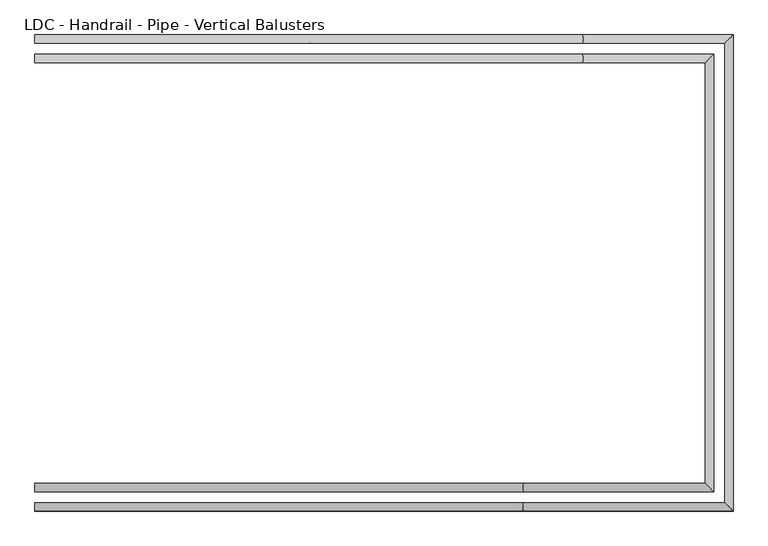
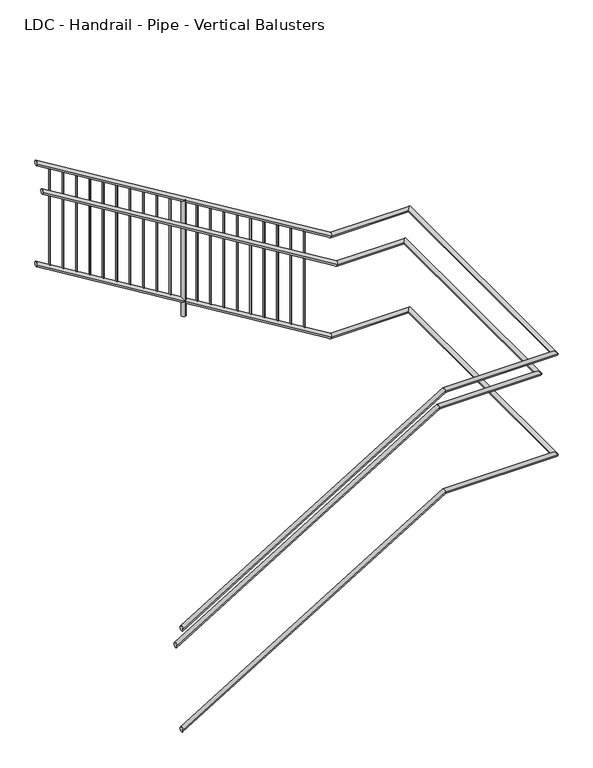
"""IFC4 building model written with IfcOpenShell, lengths in millimetres: railing geometry, LDC - Handrail - Pipe - Vertical Balusters."""

from ifc_helpers import new_model, si_unit, point, frame, frame_2d, origin, place, context, project, spatial, circle_curve, ellipse_curve, trimmed, segment, composite_curve, outline, extrude, source, transform, mapped, element, save
from ifc_brep_helpers import plane_surface, cylinder_surface, advanced_brep


def ldc_handrail_pipe_vertical_balusters_fcc166f6(model_context):
    return source(origin(), model_context, "Body", "SolidModel", [
        advanced_brep(
        [(-2909.3516552, 8367.077236, 1214.5008594), (-2909.3516552, 8328.977236, 1214.5008594), (-668.811597, 8367.077236, 2577.75), (-668.811597, 8328.977236, 2577.75), (252.9483448, 8367.077236, 2577.75), (291.0483448, 8328.977236, 2577.75), (252.9483448, 10475.277236, 2577.75), (291.0483448, 10513.377236, 2577.75), (-400.0917134, 10475.277236, 2577.75), (-400.0917134, 10513.377236, 2577.75), (-2909.3516552, 10475.277236, 4104.5008594), (-2909.3516552, 10513.377236, 4104.5008594)],
        [
            (0, 1, ellipse_curve(frame((-2909.3516552, 8348.027236, 1214.5008594), z_axis=(-1.0, 0.0, 0.0), x_axis=(0.0, 0.0, -1.0)), 22.2991406, 19.05)),
            (1, 0, ellipse_curve(frame((-2909.3516552, 8348.027236, 1214.5008594), z_axis=(-1.0, 0.0, 0.0), x_axis=(0.0, 0.0, -1.0)), 22.2991406, 19.05)),
            (0, 2),
            (2, 3, ellipse_curve(frame((-668.811597, 8348.027236, 2577.75), z_axis=(-0.9628844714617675, 0.0, -0.2699138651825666), x_axis=(0.2699138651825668, 0.0, -0.9628844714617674)), 19.7843049, 19.05)),
            (3, 1),
            (3, 2, ellipse_curve(frame((-668.811597, 8348.027236, 2577.75), z_axis=(-0.9628844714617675, 0.0, -0.2699138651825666), x_axis=(0.2699138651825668, 0.0, -0.9628844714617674)), 19.7843049, 19.05)),
            (2, 4),
            (4, 5, ellipse_curve(frame((271.9983448, 8348.027236, 2577.75), z_axis=(-0.7071067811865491, -0.7071067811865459, 0.0), x_axis=(-0.7071067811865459, 0.7071067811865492, 0.0)), 26.9407684, 19.05)),
            (5, 3),
            (5, 4, ellipse_curve(frame((271.9983448, 8348.027236, 2577.75), z_axis=(-0.7071067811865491, -0.7071067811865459, 0.0), x_axis=(-0.7071067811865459, 0.7071067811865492, 0.0)), 26.9407684, 19.05)),
            (4, 6),
            (6, 7, ellipse_curve(frame((271.9983448, 10494.327236, 2577.75), z_axis=(0.7071067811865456, -0.7071067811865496, 0.0), x_axis=(-0.7071067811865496, -0.7071067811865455, 0.0)), 26.9407684, 19.05)),
            (7, 5),
            (7, 6, ellipse_curve(frame((271.9983448, 10494.327236, 2577.75), z_axis=(0.7071067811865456, -0.7071067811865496, 0.0), x_axis=(-0.7071067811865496, -0.7071067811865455, 0.0)), 26.9407684, 19.05)),
            (6, 8),
            (8, 9, ellipse_curve(frame((-400.0917134, 10494.327236, 2577.75), z_axis=(0.9628844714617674, 0.0, -0.2699138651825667), x_axis=(0.26991386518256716, 0.0, 0.9628844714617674)), 19.7843049, 19.05)),
            (9, 7),
            (9, 8, ellipse_curve(frame((-400.0917134, 10494.327236, 2577.75), z_axis=(0.9628844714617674, 0.0, -0.2699138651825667), x_axis=(0.26991386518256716, 0.0, 0.9628844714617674)), 19.7843049, 19.05)),
            (10, 11, ellipse_curve(frame((-2909.3516552, 10494.327236, 4104.5008594), z_axis=(-1.0, 0.0, 0.0), x_axis=(0.0, 0.0, -1.0)), 22.2991406, 19.05)),
            (11, 10, ellipse_curve(frame((-2909.3516552, 10494.327236, 4104.5008594), z_axis=(-1.0, 0.0, 0.0), x_axis=(0.0, 0.0, -1.0)), 22.2991406, 19.05)),
            (8, 10),
            (11, 9),
        ],
        [
            plane_surface(frame((-2909.3516552, 8348.027236, 1236.8), z_axis=(-1.0, 0.0, 0.0), x_axis=(0.0, 1.0, 0.0))),
            cylinder_surface(frame((-2899.4496225, 8348.027236, 1220.5257181), z_axis=(-0.8542930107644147, 0.0, -0.5197917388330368), x_axis=(0.0, -1.0, 0.0)), 19.05),
            cylinder_surface(frame((-674.1516552, 8348.027236, 2577.75), z_axis=(-1.0, 0.0, 0.0), x_axis=(0.0, -1.0, 0.0)), 19.05),
            cylinder_surface(frame((271.9983448, 8348.027236, 2577.75), z_axis=(0.0, -1.0, 0.0), x_axis=(1.0, 0.0, 0.0)), 19.05),
            cylinder_surface(frame((271.9983448, 10494.327236, 2577.75), z_axis=(1.0, 0.0, 0.0), x_axis=(0.0, 1.0, 0.0)), 19.05),
            plane_surface(frame((-2909.3516552, 10494.327236, 4126.8), z_axis=(-1.0, 0.0, 0.0), x_axis=(0.0, -1.0, 0.0))),
            cylinder_surface(frame((-404.6536878, 10494.327236, 2580.5257181), z_axis=(0.8542930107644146, 0.0, -0.519791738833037), x_axis=(0.0, 1.0, 0.0)), 19.05),
        ],
        [
            (0, [[1, 2]]),
            (1, [[-1, 3, 4, 5]]),
            (1, [[-2, -5, 6, -3]]),
            (2, [[-4, 7, 8, 9]]),
            (2, [[-6, -9, 10, -7]]),
            (3, [[-8, 11, 12, 13]]),
            (3, [[-10, -13, 14, -11]]),
            (4, [[-12, 15, 16, 17]]),
            (4, [[-14, -17, 18, -15]]),
            (5, [[19, 20]]),
            (6, [[-16, 21, -20, 22]]),
            (6, [[-18, -22, -19, -21]]),
        ],
    ),
        advanced_brep(
        [(-2909.3516552, 8367.077236, 304.8633594), (-2909.3516552, 8328.977236, 304.8633594), (-668.811597, 8367.077236, 1668.1125), (-668.811597, 8328.977236, 1668.1125), (252.9483448, 8367.077236, 1668.1125), (291.0483448, 8328.977236, 1668.1125), (252.9483448, 10475.277236, 1668.1125), (291.0483448, 10513.377236, 1668.1125), (-400.0917134, 10475.277236, 1668.1125), (-400.0917134, 10513.377236, 1668.1125), (-2909.3516552, 10475.277236, 3194.8633594), (-2909.3516552, 10513.377236, 3194.8633594)],
        [
            (0, 1, ellipse_curve(frame((-2909.3516552, 8348.027236, 304.8633594), z_axis=(-1.0, 0.0, 0.0), x_axis=(0.0, 0.0, -1.0)), 22.2991406, 19.05)),
            (1, 0, ellipse_curve(frame((-2909.3516552, 8348.027236, 304.8633594), z_axis=(-1.0, 0.0, 0.0), x_axis=(0.0, 0.0, -1.0)), 22.2991406, 19.05)),
            (0, 2),
            (2, 3, ellipse_curve(frame((-668.811597, 8348.027236, 1668.1125), z_axis=(-0.9628844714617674, 0.0, -0.26991386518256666), x_axis=(0.2699138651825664, 0.0, -0.9628844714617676)), 19.7843049, 19.05)),
            (3, 1),
            (3, 2, ellipse_curve(frame((-668.811597, 8348.027236, 1668.1125), z_axis=(-0.9628844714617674, 0.0, -0.26991386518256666), x_axis=(0.2699138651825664, 0.0, -0.9628844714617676)), 19.7843049, 19.05)),
            (2, 4),
            (4, 5, ellipse_curve(frame((271.9983448, 8348.027236, 1668.1125), z_axis=(-0.7071067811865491, -0.7071067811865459, 0.0), x_axis=(-0.7071067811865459, 0.7071067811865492, 0.0)), 26.9407684, 19.05)),
            (5, 3),
            (5, 4, ellipse_curve(frame((271.9983448, 8348.027236, 1668.1125), z_axis=(-0.7071067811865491, -0.7071067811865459, 0.0), x_axis=(-0.7071067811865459, 0.7071067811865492, 0.0)), 26.9407684, 19.05)),
            (4, 6),
            (6, 7, ellipse_curve(frame((271.9983448, 10494.327236, 1668.1125), z_axis=(0.7071067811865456, -0.7071067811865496, 0.0), x_axis=(-0.7071067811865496, -0.7071067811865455, 0.0)), 26.9407684, 19.05)),
            (7, 5),
            (7, 6, ellipse_curve(frame((271.9983448, 10494.327236, 1668.1125), z_axis=(0.7071067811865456, -0.7071067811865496, 0.0), x_axis=(-0.7071067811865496, -0.7071067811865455, 0.0)), 26.9407684, 19.05)),
            (6, 8),
            (8, 9, ellipse_curve(frame((-400.0917134, 10494.327236, 1668.1125), z_axis=(0.9628844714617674, 0.0, -0.2699138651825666), x_axis=(0.2699138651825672, 0.0, 0.9628844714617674)), 19.7843049, 19.05)),
            (9, 7),
            (9, 8, ellipse_curve(frame((-400.0917134, 10494.327236, 1668.1125), z_axis=(0.9628844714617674, 0.0, -0.2699138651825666), x_axis=(0.2699138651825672, 0.0, 0.9628844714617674)), 19.7843049, 19.05)),
            (10, 11, ellipse_curve(frame((-2909.3516552, 10494.327236, 3194.8633594), z_axis=(-1.0, 0.0, 0.0), x_axis=(0.0, 0.0, -1.0)), 22.2991406, 19.05)),
            (11, 10, ellipse_curve(frame((-2909.3516552, 10494.327236, 3194.8633594), z_axis=(-1.0, 0.0, 0.0), x_axis=(0.0, 0.0, -1.0)), 22.2991406, 19.05)),
            (8, 10),
            (11, 9),
        ],
        [
            plane_surface(frame((-2909.3516552, 8348.027236, 327.1625), z_axis=(-1.0, 0.0, 0.0), x_axis=(0.0, 1.0, 0.0))),
            cylinder_surface(frame((-2899.4496225, 8348.027236, 310.8882181), z_axis=(-0.8542930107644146, 0.0, -0.5197917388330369), x_axis=(0.0, -1.0, 0.0)), 19.05),
            cylinder_surface(frame((-674.1516552, 8348.027236, 1668.1125), z_axis=(-1.0, 0.0, 0.0), x_axis=(0.0, -1.0, 0.0)), 19.05),
            cylinder_surface(frame((271.9983448, 8348.027236, 1668.1125), z_axis=(0.0, -1.0, 0.0), x_axis=(1.0, 0.0, 0.0)), 19.05),
            cylinder_surface(frame((271.9983448, 10494.327236, 1668.1125), z_axis=(1.0, 0.0, 0.0), x_axis=(0.0, 1.0, 0.0)), 19.05),
            plane_surface(frame((-2909.3516552, 10494.327236, 3217.1625), z_axis=(-1.0, 0.0, 0.0), x_axis=(0.0, -1.0, 0.0))),
            cylinder_surface(frame((-404.6536878, 10494.327236, 1670.8882181), z_axis=(0.8542930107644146, 0.0, -0.5197917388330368), x_axis=(0.0, 1.0, 0.0)), 19.05),
        ],
        [
            (0, [[1, 2]]),
            (1, [[-1, 3, 4, 5]]),
            (1, [[-2, -5, 6, -3]]),
            (2, [[-4, 7, 8, 9]]),
            (2, [[-6, -9, 10, -7]]),
            (3, [[-8, 11, 12, 13]]),
            (3, [[-10, -13, 14, -11]]),
            (4, [[-12, 15, 16, 17]]),
            (4, [[-14, -17, 18, -15]]),
            (5, [[19, 20]]),
            (6, [[-16, 21, -20, 22]]),
            (6, [[-18, -22, -19, -21]]),
        ],
    ),
        advanced_brep(
        [(-2909.3516552, 8455.977236, 1011.3008594), (-2909.3516552, 8417.877236, 1011.3008594), (-668.811597, 8455.977236, 2374.55), (-668.811597, 8417.877236, 2374.55), (164.0483448, 8455.977236, 2374.55), (202.1483448, 8417.877236, 2374.55), (164.0483448, 10386.377236, 2374.55), (202.1483448, 10424.477236, 2374.55), (-400.0917134, 10386.377236, 2374.55), (-400.0917134, 10424.477236, 2374.55), (-2909.3516552, 10386.377236, 3901.3008594), (-2909.3516552, 10424.477236, 3901.3008594)],
        [
            (0, 1, ellipse_curve(frame((-2909.3516552, 8436.927236, 1011.3008594), z_axis=(-1.0, 0.0, 0.0), x_axis=(0.0, 0.0, -1.0)), 22.2991406, 19.05)),
            (1, 0, ellipse_curve(frame((-2909.3516552, 8436.927236, 1011.3008594), z_axis=(-1.0, 0.0, 0.0), x_axis=(0.0, 0.0, -1.0)), 22.2991406, 19.05)),
            (0, 2),
            (2, 3, ellipse_curve(frame((-668.811597, 8436.927236, 2374.55), z_axis=(-0.9628844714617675, 0.0, -0.2699138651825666), x_axis=(0.2699138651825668, 0.0, -0.9628844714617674)), 19.7843049, 19.05)),
            (3, 1),
            (3, 2, ellipse_curve(frame((-668.811597, 8436.927236, 2374.55), z_axis=(-0.9628844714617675, 0.0, -0.2699138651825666), x_axis=(0.2699138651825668, 0.0, -0.9628844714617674)), 19.7843049, 19.05)),
            (2, 4),
            (4, 5, ellipse_curve(frame((183.0983448, 8436.927236, 2374.55), z_axis=(-0.7071067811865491, -0.7071067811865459, 0.0), x_axis=(-0.7071067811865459, 0.7071067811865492, 0.0)), 26.9407684, 19.05)),
            (5, 3),
            (5, 4, ellipse_curve(frame((183.0983448, 8436.927236, 2374.55), z_axis=(-0.7071067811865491, -0.7071067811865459, 0.0), x_axis=(-0.7071067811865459, 0.7071067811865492, 0.0)), 26.9407684, 19.05)),
            (4, 6),
            (6, 7, ellipse_curve(frame((183.0983448, 10405.427236, 2374.55), z_axis=(0.7071067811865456, -0.7071067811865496, 0.0), x_axis=(-0.7071067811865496, -0.7071067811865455, 0.0)), 26.9407684, 19.05)),
            (7, 5),
            (7, 6, ellipse_curve(frame((183.0983448, 10405.427236, 2374.55), z_axis=(0.7071067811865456, -0.7071067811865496, 0.0), x_axis=(-0.7071067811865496, -0.7071067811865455, 0.0)), 26.9407684, 19.05)),
            (6, 8),
            (8, 9, ellipse_curve(frame((-400.0917134, 10405.427236, 2374.55), z_axis=(0.9628844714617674, 0.0, -0.26991386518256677), x_axis=(0.2699138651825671, 0.0, 0.9628844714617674)), 19.7843049, 19.05)),
            (9, 7),
            (9, 8, ellipse_curve(frame((-400.0917134, 10405.427236, 2374.55), z_axis=(0.9628844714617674, 0.0, -0.26991386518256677), x_axis=(0.2699138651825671, 0.0, 0.9628844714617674)), 19.7843049, 19.05)),
            (10, 11, ellipse_curve(frame((-2909.3516552, 10405.427236, 3901.3008594), z_axis=(-1.0, 0.0, 0.0), x_axis=(0.0, 0.0, -1.0)), 22.2991406, 19.05)),
            (11, 10, ellipse_curve(frame((-2909.3516552, 10405.427236, 3901.3008594), z_axis=(-1.0, 0.0, 0.0), x_axis=(0.0, 0.0, -1.0)), 22.2991406, 19.05)),
            (8, 10),
            (11, 9),
        ],
        [
            plane_surface(frame((-2909.3516552, 8436.927236, 1033.6), z_axis=(-1.0, 0.0, 0.0), x_axis=(0.0, 1.0, 0.0))),
            cylinder_surface(frame((-2899.4496225, 8436.927236, 1017.3257181), z_axis=(-0.8542930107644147, 0.0, -0.5197917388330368), x_axis=(0.0, -1.0, 0.0)), 19.05),
            cylinder_surface(frame((-674.1516552, 8436.927236, 2374.55), z_axis=(-1.0, 0.0, 0.0), x_axis=(0.0, -1.0, 0.0)), 19.05),
            cylinder_surface(frame((183.0983448, 8436.927236, 2374.55), z_axis=(0.0, -1.0, 0.0), x_axis=(1.0, 0.0, 0.0)), 19.05),
            cylinder_surface(frame((183.0983448, 10405.427236, 2374.55), z_axis=(1.0, 0.0, 0.0), x_axis=(0.0, 1.0, 0.0)), 19.05),
            plane_surface(frame((-2909.3516552, 10405.427236, 3923.6), z_axis=(-1.0, 0.0, 0.0), x_axis=(0.0, -1.0, 0.0))),
            cylinder_surface(frame((-404.6536878, 10405.427236, 2377.3257181), z_axis=(0.8542930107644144, 0.0, -0.5197917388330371), x_axis=(0.0, 1.0, 0.0)), 19.05),
        ],
        [
            (0, [[1, 2]]),
            (1, [[-1, 3, 4, 5]]),
            (1, [[-2, -5, 6, -3]]),
            (2, [[-4, 7, 8, 9]]),
            (2, [[-6, -9, 10, -7]]),
            (3, [[-8, 11, 12, 13]]),
            (3, [[-10, -13, 14, -11]]),
            (4, [[-12, 15, 16, 17]]),
            (4, [[-14, -17, 18, -15]]),
            (5, [[19, 20]]),
            (6, [[-16, 21, -20, 22]]),
            (6, [[-18, -22, -19, -21]]),
        ],
    ),
        advanced_brep(
        [(-2795.0516552, 10500.677236, 4012.7034503), (-2795.0516552, 10500.677236, 3147.6170455), (-2795.0516552, 10487.977236, 3147.6170455), (-2795.0516552, 10487.977236, 4012.7034503)],
        [
            (0, 1),
            (1, 2, ellipse_curve(frame((-2795.0516552, 10494.327236, 3147.6170455), z_axis=(0.5183017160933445, 0.0, 0.8551978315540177), x_axis=(-0.8551978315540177, 0.0, 0.5183017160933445)), 7.4251825, 6.35)),
            (2, 3),
            (3, 0, ellipse_curve(frame((-2795.0516552, 10494.327236, 4012.7034503), z_axis=(-0.5183017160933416, 0.0, -0.8551978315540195), x_axis=(-0.8551978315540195, 0.0, 0.5183017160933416)), 7.4251825, 6.35)),
            (0, 3, ellipse_curve(frame((-2795.0516552, 10494.327236, 4012.7034503), z_axis=(-0.5183017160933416, 0.0, -0.8551978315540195), x_axis=(-0.8551978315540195, 0.0, 0.5183017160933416)), 7.4251825, 6.35)),
            (2, 1, ellipse_curve(frame((-2795.0516552, 10494.327236, 3147.6170455), z_axis=(0.5183017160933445, 0.0, 0.8551978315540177), x_axis=(-0.8551978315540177, 0.0, 0.5183017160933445)), 7.4251825, 6.35)),
        ],
        [
            cylinder_surface(frame((-2795.0516552, 10494.327236, 2919.0170455), z_axis=(0.0, 0.0, 1.0), x_axis=(0.0, -1.0, 0.0)), 6.35),
            plane_surface(frame((-2807.7516552, 10481.627236, 4020.40042), z_axis=(0.5183017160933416, 0.0, 0.8551978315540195), x_axis=(0.0, 1.0, 0.0))),
            plane_surface(frame((-2782.3516552, 10481.627236, 3139.9200758), z_axis=(-0.5183017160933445, 0.0, -0.8551978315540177), x_axis=(0.0, 1.0, 0.0))),
        ],
        [
            (0, [[1, 2, 3, 4]]),
            (0, [[-1, 5, -3, 6]]),
            (1, [[-4, -5]]),
            (2, [[-2, -6]]),
        ],
    ),
        advanced_brep(
        [(-2680.7516552, 10500.677236, 3943.1579957), (-2680.7516552, 10500.677236, 3078.0715909), (-2680.7516552, 10487.977236, 3078.0715909), (-2680.7516552, 10487.977236, 3943.1579957)],
        [
            (0, 1),
            (1, 2, ellipse_curve(frame((-2680.7516552, 10494.327236, 3078.0715909), z_axis=(0.5183017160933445, 0.0, 0.8551978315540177), x_axis=(-0.8551978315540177, 0.0, 0.5183017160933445)), 7.4251825, 6.35)),
            (2, 3),
            (3, 0, ellipse_curve(frame((-2680.7516552, 10494.327236, 3943.1579957), z_axis=(-0.5183017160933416, 0.0, -0.8551978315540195), x_axis=(-0.8551978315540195, 0.0, 0.5183017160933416)), 7.4251825, 6.35)),
            (0, 3, ellipse_curve(frame((-2680.7516552, 10494.327236, 3943.1579957), z_axis=(-0.5183017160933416, 0.0, -0.8551978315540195), x_axis=(-0.8551978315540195, 0.0, 0.5183017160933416)), 7.4251825, 6.35)),
            (2, 1, ellipse_curve(frame((-2680.7516552, 10494.327236, 3078.0715909), z_axis=(0.5183017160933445, 0.0, 0.8551978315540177), x_axis=(-0.8551978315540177, 0.0, 0.5183017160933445)), 7.4251825, 6.35)),
        ],
        [
            cylinder_surface(frame((-2680.7516552, 10494.327236, 2849.4715909), z_axis=(0.0, 0.0, 1.0), x_axis=(0.0, -1.0, 0.0)), 6.35),
            plane_surface(frame((-2693.4516552, 10481.627236, 3950.8549654), z_axis=(0.5183017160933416, 0.0, 0.8551978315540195), x_axis=(0.0, 1.0, 0.0))),
            plane_surface(frame((-2668.0516552, 10481.627236, 3070.3746212), z_axis=(-0.5183017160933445, 0.0, -0.8551978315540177), x_axis=(0.0, 1.0, 0.0))),
        ],
        [
            (0, [[1, 2, 3, 4]]),
            (0, [[-1, 5, -3, 6]]),
            (1, [[-4, -5]]),
            (2, [[-2, -6]]),
        ],
    ),
        advanced_brep(
        [(-2566.4516552, 10500.677236, 3873.6125412), (-2566.4516552, 10500.677236, 3008.5261364), (-2566.4516552, 10487.977236, 3008.5261364), (-2566.4516552, 10487.977236, 3873.6125412)],
        [
            (0, 1),
            (1, 2, ellipse_curve(frame((-2566.4516552, 10494.327236, 3008.5261364), z_axis=(0.5183017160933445, 0.0, 0.8551978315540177), x_axis=(-0.8551978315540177, 0.0, 0.5183017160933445)), 7.4251825, 6.35)),
            (2, 3),
            (3, 0, ellipse_curve(frame((-2566.4516552, 10494.327236, 3873.6125412), z_axis=(-0.5183017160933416, 0.0, -0.8551978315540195), x_axis=(-0.8551978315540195, 0.0, 0.5183017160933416)), 7.4251825, 6.35)),
            (0, 3, ellipse_curve(frame((-2566.4516552, 10494.327236, 3873.6125412), z_axis=(-0.5183017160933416, 0.0, -0.8551978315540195), x_axis=(-0.8551978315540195, 0.0, 0.5183017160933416)), 7.4251825, 6.35)),
            (2, 1, ellipse_curve(frame((-2566.4516552, 10494.327236, 3008.5261364), z_axis=(0.5183017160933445, 0.0, 0.8551978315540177), x_axis=(-0.8551978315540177, 0.0, 0.5183017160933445)), 7.4251825, 6.35)),
        ],
        [
            cylinder_surface(frame((-2566.4516552, 10494.327236, 2779.9261364), z_axis=(0.0, 0.0, 1.0), x_axis=(0.0, -1.0, 0.0)), 6.35),
            plane_surface(frame((-2579.1516552, 10481.627236, 3881.3095109), z_axis=(0.5183017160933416, 0.0, 0.8551978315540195), x_axis=(0.0, 1.0, 0.0))),
            plane_surface(frame((-2553.7516552, 10481.627236, 3000.8291667), z_axis=(-0.5183017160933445, 0.0, -0.8551978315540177), x_axis=(0.0, 1.0, 0.0))),
        ],
        [
            (0, [[1, 2, 3, 4]]),
            (0, [[-1, 5, -3, 6]]),
            (1, [[-4, -5]]),
            (2, [[-2, -6]]),
        ],
    ),
        advanced_brep(
        [(-2452.1516552, 10500.677236, 3804.0670866), (-2452.1516552, 10500.677236, 2938.9806818), (-2452.1516552, 10487.977236, 2938.9806818), (-2452.1516552, 10487.977236, 3804.0670866)],
        [
            (0, 1),
            (1, 2, ellipse_curve(frame((-2452.1516552, 10494.327236, 2938.9806818), z_axis=(0.5183017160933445, 0.0, 0.8551978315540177), x_axis=(-0.8551978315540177, 0.0, 0.5183017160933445)), 7.4251825, 6.35)),
            (2, 3),
            (3, 0, ellipse_curve(frame((-2452.1516552, 10494.327236, 3804.0670866), z_axis=(-0.5183017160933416, 0.0, -0.8551978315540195), x_axis=(-0.8551978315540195, 0.0, 0.5183017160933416)), 7.4251825, 6.35)),
            (0, 3, ellipse_curve(frame((-2452.1516552, 10494.327236, 3804.0670866), z_axis=(-0.5183017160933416, 0.0, -0.8551978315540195), x_axis=(-0.8551978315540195, 0.0, 0.5183017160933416)), 7.4251825, 6.35)),
            (2, 1, ellipse_curve(frame((-2452.1516552, 10494.327236, 2938.9806818), z_axis=(0.5183017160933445, 0.0, 0.8551978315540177), x_axis=(-0.8551978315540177, 0.0, 0.5183017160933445)), 7.4251825, 6.35)),
        ],
        [
            cylinder_surface(frame((-2452.1516552, 10494.327236, 2710.3806818), z_axis=(0.0, 0.0, 1.0), x_axis=(0.0, -1.0, 0.0)), 6.35),
            plane_surface(frame((-2464.8516552, 10481.627236, 3811.7640563), z_axis=(0.5183017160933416, 0.0, 0.8551978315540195), x_axis=(0.0, 1.0, 0.0))),
            plane_surface(frame((-2439.4516552, 10481.627236, 2931.2837121), z_axis=(-0.5183017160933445, 0.0, -0.8551978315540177), x_axis=(0.0, 1.0, 0.0))),
        ],
        [
            (0, [[1, 2, 3, 4]]),
            (0, [[-1, 5, -3, 6]]),
            (1, [[-4, -5]]),
            (2, [[-2, -6]]),
        ],
    ),
        advanced_brep(
        [(-2337.8516552, 10500.677236, 3734.5216321), (-2337.8516552, 10500.677236, 2869.4352273), (-2337.8516552, 10487.977236, 2869.4352273), (-2337.8516552, 10487.977236, 3734.5216321)],
        [
            (0, 1),
            (1, 2, ellipse_curve(frame((-2337.8516552, 10494.327236, 2869.4352273), z_axis=(0.5183017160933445, 0.0, 0.8551978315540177), x_axis=(-0.8551978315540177, 0.0, 0.5183017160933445)), 7.4251825, 6.35)),
            (2, 3),
            (3, 0, ellipse_curve(frame((-2337.8516552, 10494.327236, 3734.5216321), z_axis=(-0.5183017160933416, 0.0, -0.8551978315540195), x_axis=(-0.8551978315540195, 0.0, 0.5183017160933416)), 7.4251825, 6.35)),
            (0, 3, ellipse_curve(frame((-2337.8516552, 10494.327236, 3734.5216321), z_axis=(-0.5183017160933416, 0.0, -0.8551978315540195), x_axis=(-0.8551978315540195, 0.0, 0.5183017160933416)), 7.4251825, 6.35)),
            (2, 1, ellipse_curve(frame((-2337.8516552, 10494.327236, 2869.4352273), z_axis=(0.5183017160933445, 0.0, 0.8551978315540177), x_axis=(-0.8551978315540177, 0.0, 0.5183017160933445)), 7.4251825, 6.35)),
        ],
        [
            cylinder_surface(frame((-2337.8516552, 10494.327236, 2640.8352273), z_axis=(0.0, 0.0, 1.0), x_axis=(0.0, -1.0, 0.0)), 6.35),
            plane_surface(frame((-2350.5516552, 10481.627236, 3742.2186018), z_axis=(0.5183017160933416, 0.0, 0.8551978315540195), x_axis=(0.0, 1.0, 0.0))),
            plane_surface(frame((-2325.1516552, 10481.627236, 2861.7382576), z_axis=(-0.5183017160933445, 0.0, -0.8551978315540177), x_axis=(0.0, 1.0, 0.0))),
        ],
        [
            (0, [[1, 2, 3, 4]]),
            (0, [[-1, 5, -3, 6]]),
            (1, [[-4, -5]]),
            (2, [[-2, -6]]),
        ],
    ),
        advanced_brep(
        [(-2223.5516552, 10500.677236, 3664.9761775), (-2223.5516552, 10500.677236, 2799.8897727), (-2223.5516552, 10487.977236, 2799.8897727), (-2223.5516552, 10487.977236, 3664.9761775)],
        [
            (0, 1),
            (1, 2, ellipse_curve(frame((-2223.5516552, 10494.327236, 2799.8897727), z_axis=(0.5183017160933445, 0.0, 0.8551978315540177), x_axis=(-0.8551978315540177, 0.0, 0.5183017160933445)), 7.4251825, 6.35)),
            (2, 3),
            (3, 0, ellipse_curve(frame((-2223.5516552, 10494.327236, 3664.9761775), z_axis=(-0.5183017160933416, 0.0, -0.8551978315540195), x_axis=(-0.8551978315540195, 0.0, 0.5183017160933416)), 7.4251825, 6.35)),
            (0, 3, ellipse_curve(frame((-2223.5516552, 10494.327236, 3664.9761775), z_axis=(-0.5183017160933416, 0.0, -0.8551978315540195), x_axis=(-0.8551978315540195, 0.0, 0.5183017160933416)), 7.4251825, 6.35)),
            (2, 1, ellipse_curve(frame((-2223.5516552, 10494.327236, 2799.8897727), z_axis=(0.5183017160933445, 0.0, 0.8551978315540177), x_axis=(-0.8551978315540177, 0.0, 0.5183017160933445)), 7.4251825, 6.35)),
        ],
        [
            cylinder_surface(frame((-2223.5516552, 10494.327236, 2571.2897727), z_axis=(0.0, 0.0, 1.0), x_axis=(0.0, -1.0, 0.0)), 6.35),
            plane_surface(frame((-2236.2516552, 10481.627236, 3672.6731472), z_axis=(0.5183017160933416, 0.0, 0.8551978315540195), x_axis=(0.0, 1.0, 0.0))),
            plane_surface(frame((-2210.8516552, 10481.627236, 2792.192803), z_axis=(-0.5183017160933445, 0.0, -0.8551978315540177), x_axis=(0.0, 1.0, 0.0))),
        ],
        [
            (0, [[1, 2, 3, 4]]),
            (0, [[-1, 5, -3, 6]]),
            (1, [[-4, -5]]),
            (2, [[-2, -6]]),
        ],
    ),
        advanced_brep(
        [(-2109.2516552, 10500.677236, 3595.430723), (-2109.2516552, 10500.677236, 2730.3443182), (-2109.2516552, 10487.977236, 2730.3443182), (-2109.2516552, 10487.977236, 3595.430723)],
        [
            (0, 1),
            (1, 2, ellipse_curve(frame((-2109.2516552, 10494.327236, 2730.3443182), z_axis=(0.5183017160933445, 0.0, 0.8551978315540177), x_axis=(-0.8551978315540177, 0.0, 0.5183017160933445)), 7.4251825, 6.35)),
            (2, 3),
            (3, 0, ellipse_curve(frame((-2109.2516552, 10494.327236, 3595.430723), z_axis=(-0.5183017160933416, 0.0, -0.8551978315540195), x_axis=(-0.8551978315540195, 0.0, 0.5183017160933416)), 7.4251825, 6.35)),
            (0, 3, ellipse_curve(frame((-2109.2516552, 10494.327236, 3595.430723), z_axis=(-0.5183017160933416, 0.0, -0.8551978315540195), x_axis=(-0.8551978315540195, 0.0, 0.5183017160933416)), 7.4251825, 6.35)),
            (2, 1, ellipse_curve(frame((-2109.2516552, 10494.327236, 2730.3443182), z_axis=(0.5183017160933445, 0.0, 0.8551978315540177), x_axis=(-0.8551978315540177, 0.0, 0.5183017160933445)), 7.4251825, 6.35)),
        ],
        [
            cylinder_surface(frame((-2109.2516552, 10494.327236, 2501.7443182), z_axis=(0.0, 0.0, 1.0), x_axis=(0.0, -1.0, 0.0)), 6.35),
            plane_surface(frame((-2121.9516552, 10481.627236, 3603.1276927), z_axis=(0.5183017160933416, 0.0, 0.8551978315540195), x_axis=(0.0, 1.0, 0.0))),
            plane_surface(frame((-2096.5516552, 10481.627236, 2722.6473485), z_axis=(-0.5183017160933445, 0.0, -0.8551978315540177), x_axis=(0.0, 1.0, 0.0))),
        ],
        [
            (0, [[1, 2, 3, 4]]),
            (0, [[-1, 5, -3, 6]]),
            (1, [[-4, -5]]),
            (2, [[-2, -6]]),
        ],
    ),
        advanced_brep(
        [(-1994.9516552, 10500.677236, 3525.8852684), (-1994.9516552, 10500.677236, 2660.7988636), (-1994.9516552, 10487.977236, 2660.7988636), (-1994.9516552, 10487.977236, 3525.8852684)],
        [
            (0, 1),
            (1, 2, ellipse_curve(frame((-1994.9516552, 10494.327236, 2660.7988636), z_axis=(0.5183017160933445, 0.0, 0.8551978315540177), x_axis=(-0.8551978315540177, 0.0, 0.5183017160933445)), 7.4251825, 6.35)),
            (2, 3),
            (3, 0, ellipse_curve(frame((-1994.9516552, 10494.327236, 3525.8852684), z_axis=(-0.5183017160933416, 0.0, -0.8551978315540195), x_axis=(-0.8551978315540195, 0.0, 0.5183017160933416)), 7.4251825, 6.35)),
            (0, 3, ellipse_curve(frame((-1994.9516552, 10494.327236, 3525.8852684), z_axis=(-0.5183017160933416, 0.0, -0.8551978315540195), x_axis=(-0.8551978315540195, 0.0, 0.5183017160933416)), 7.4251825, 6.35)),
            (2, 1, ellipse_curve(frame((-1994.9516552, 10494.327236, 2660.7988636), z_axis=(0.5183017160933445, 0.0, 0.8551978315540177), x_axis=(-0.8551978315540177, 0.0, 0.5183017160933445)), 7.4251825, 6.35)),
        ],
        [
            cylinder_surface(frame((-1994.9516552, 10494.327236, 2432.1988636), z_axis=(0.0, 0.0, 1.0), x_axis=(0.0, -1.0, 0.0)), 6.35),
            plane_surface(frame((-2007.6516552, 10481.627236, 3533.5822381), z_axis=(0.5183017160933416, 0.0, 0.8551978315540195), x_axis=(0.0, 1.0, 0.0))),
            plane_surface(frame((-1982.2516552, 10481.627236, 2653.1018939), z_axis=(-0.5183017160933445, 0.0, -0.8551978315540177), x_axis=(0.0, 1.0, 0.0))),
        ],
        [
            (0, [[1, 2, 3, 4]]),
            (0, [[-1, 5, -3, 6]]),
            (1, [[-4, -5]]),
            (2, [[-2, -6]]),
        ],
    ),
        advanced_brep(
        [(-1880.6516552, 10500.677236, 3456.3398139), (-1880.6516552, 10500.677236, 2591.2534091), (-1880.6516552, 10487.977236, 2591.2534091), (-1880.6516552, 10487.977236, 3456.3398139)],
        [
            (0, 1),
            (1, 2, ellipse_curve(frame((-1880.6516552, 10494.327236, 2591.2534091), z_axis=(0.5183017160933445, 0.0, 0.8551978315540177), x_axis=(-0.8551978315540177, 0.0, 0.5183017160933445)), 7.4251825, 6.35)),
            (2, 3),
            (3, 0, ellipse_curve(frame((-1880.6516552, 10494.327236, 3456.3398139), z_axis=(-0.5183017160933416, 0.0, -0.8551978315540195), x_axis=(-0.8551978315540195, 0.0, 0.5183017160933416)), 7.4251825, 6.35)),
            (0, 3, ellipse_curve(frame((-1880.6516552, 10494.327236, 3456.3398139), z_axis=(-0.5183017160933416, 0.0, -0.8551978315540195), x_axis=(-0.8551978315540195, 0.0, 0.5183017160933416)), 7.4251825, 6.35)),
            (2, 1, ellipse_curve(frame((-1880.6516552, 10494.327236, 2591.2534091), z_axis=(0.5183017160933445, 0.0, 0.8551978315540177), x_axis=(-0.8551978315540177, 0.0, 0.5183017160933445)), 7.4251825, 6.35)),
        ],
        [
            cylinder_surface(frame((-1880.6516552, 10494.327236, 2362.6534091), z_axis=(0.0, 0.0, 1.0), x_axis=(0.0, -1.0, 0.0)), 6.35),
            plane_surface(frame((-1893.3516552, 10481.627236, 3464.0367836), z_axis=(0.5183017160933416, 0.0, 0.8551978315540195), x_axis=(0.0, 1.0, 0.0))),
            plane_surface(frame((-1867.9516552, 10481.627236, 2583.5564394), z_axis=(-0.5183017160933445, 0.0, -0.8551978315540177), x_axis=(0.0, 1.0, 0.0))),
        ],
        [
            (0, [[1, 2, 3, 4]]),
            (0, [[-1, 5, -3, 6]]),
            (1, [[-4, -5]]),
            (2, [[-2, -6]]),
        ],
    ),
        advanced_brep(
        [(-1766.3516552, 10500.677236, 3386.7943594), (-1766.3516552, 10500.677236, 2521.7079545), (-1766.3516552, 10487.977236, 2521.7079545), (-1766.3516552, 10487.977236, 3386.7943594)],
        [
            (0, 1),
            (1, 2, ellipse_curve(frame((-1766.3516552, 10494.327236, 2521.7079545), z_axis=(0.5183017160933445, 0.0, 0.8551978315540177), x_axis=(-0.8551978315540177, 0.0, 0.5183017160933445)), 7.4251825, 6.35)),
            (2, 3),
            (3, 0, ellipse_curve(frame((-1766.3516552, 10494.327236, 3386.7943594), z_axis=(-0.5183017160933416, 0.0, -0.8551978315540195), x_axis=(-0.8551978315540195, 0.0, 0.5183017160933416)), 7.4251825, 6.35)),
            (0, 3, ellipse_curve(frame((-1766.3516552, 10494.327236, 3386.7943594), z_axis=(-0.5183017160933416, 0.0, -0.8551978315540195), x_axis=(-0.8551978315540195, 0.0, 0.5183017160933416)), 7.4251825, 6.35)),
            (2, 1, ellipse_curve(frame((-1766.3516552, 10494.327236, 2521.7079545), z_axis=(0.5183017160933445, 0.0, 0.8551978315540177), x_axis=(-0.8551978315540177, 0.0, 0.5183017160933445)), 7.4251825, 6.35)),
        ],
        [
            cylinder_surface(frame((-1766.3516552, 10494.327236, 2293.1079545), z_axis=(0.0, 0.0, 1.0), x_axis=(0.0, -1.0, 0.0)), 6.35),
            plane_surface(frame((-1779.0516552, 10481.627236, 3394.4913291), z_axis=(0.5183017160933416, 0.0, 0.8551978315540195), x_axis=(0.0, 1.0, 0.0))),
            plane_surface(frame((-1753.6516552, 10481.627236, 2514.0109848), z_axis=(-0.5183017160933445, 0.0, -0.8551978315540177), x_axis=(0.0, 1.0, 0.0))),
        ],
        [
            (0, [[1, 2, 3, 4]]),
            (0, [[-1, 5, -3, 6]]),
            (1, [[-4, -5]]),
            (2, [[-2, -6]]),
        ],
    ),
        extrude(outline(composite_curve([segment(trimmed(circle_curve(frame_2d((-1652.0516552, 10494.327236)), 19.05), [point((-1652.0516552, 10475.277236))], [point((-1652.0516552, 10513.377236))], False, "CARTESIAN"), True, "CONTINUOUS"), segment(trimmed(circle_curve(frame_2d((-1652.0516552, 10494.327236)), 19.05), [point((-1652.0516552, 10513.377236))], [point((-1652.0516552, 10475.277236))], False, "CARTESIAN"), True, "CONTINUOUS")], self_intersect=False)), frame((0.0, 0.0, 2295.0), z_axis=(0.0, 0.0, 1.0), x_axis=(1.0, 0.0, 0.0)), (0.0, 0.0, 1.0), 1047.75),
        advanced_brep(
        [(-1652.0516552, 10500.677236, 3317.2489048), (-1652.0516552, 10500.677236, 2452.1625), (-1652.0516552, 10487.977236, 2452.1625), (-1652.0516552, 10487.977236, 3317.2489048)],
        [
            (0, 1),
            (1, 2, ellipse_curve(frame((-1652.0516552, 10494.327236, 2452.1625), z_axis=(0.5183017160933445, 0.0, 0.8551978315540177), x_axis=(-0.8551978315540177, 0.0, 0.5183017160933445)), 7.4251825, 6.35)),
            (2, 3),
            (3, 0, ellipse_curve(frame((-1652.0516552, 10494.327236, 3317.2489048), z_axis=(-0.5183017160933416, 0.0, -0.8551978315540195), x_axis=(-0.8551978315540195, 0.0, 0.5183017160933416)), 7.4251825, 6.35)),
            (0, 3, ellipse_curve(frame((-1652.0516552, 10494.327236, 3317.2489048), z_axis=(-0.5183017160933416, 0.0, -0.8551978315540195), x_axis=(-0.8551978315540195, 0.0, 0.5183017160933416)), 7.4251825, 6.35)),
            (2, 1, ellipse_curve(frame((-1652.0516552, 10494.327236, 2452.1625), z_axis=(0.5183017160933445, 0.0, 0.8551978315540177), x_axis=(-0.8551978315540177, 0.0, 0.5183017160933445)), 7.4251825, 6.35)),
        ],
        [
            cylinder_surface(frame((-1652.0516552, 10494.327236, 2223.5625), z_axis=(0.0, 0.0, 1.0), x_axis=(0.0, -1.0, 0.0)), 6.35),
            plane_surface(frame((-1664.7516552, 10481.627236, 3324.9458745), z_axis=(0.5183017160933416, 0.0, 0.8551978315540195), x_axis=(0.0, 1.0, 0.0))),
            plane_surface(frame((-1639.3516552, 10481.627236, 2444.4655303), z_axis=(-0.5183017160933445, 0.0, -0.8551978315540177), x_axis=(0.0, 1.0, 0.0))),
        ],
        [
            (0, [[1, 2, 3, 4]]),
            (0, [[-1, 5, -3, 6]]),
            (1, [[-4, -5]]),
            (2, [[-2, -6]]),
        ],
    ),
        advanced_brep(
        [(-1537.7516552, 10500.677236, 3247.7034503), (-1537.7516552, 10500.677236, 2382.6170455), (-1537.7516552, 10487.977236, 2382.6170455), (-1537.7516552, 10487.977236, 3247.7034503)],
        [
            (0, 1),
            (1, 2, ellipse_curve(frame((-1537.7516552, 10494.327236, 2382.6170455), z_axis=(0.5183017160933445, 0.0, 0.8551978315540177), x_axis=(-0.8551978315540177, 0.0, 0.5183017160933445)), 7.4251825, 6.35)),
            (2, 3),
            (3, 0, ellipse_curve(frame((-1537.7516552, 10494.327236, 3247.7034503), z_axis=(-0.5183017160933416, 0.0, -0.8551978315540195), x_axis=(-0.8551978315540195, 0.0, 0.5183017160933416)), 7.4251825, 6.35)),
            (0, 3, ellipse_curve(frame((-1537.7516552, 10494.327236, 3247.7034503), z_axis=(-0.5183017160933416, 0.0, -0.8551978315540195), x_axis=(-0.8551978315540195, 0.0, 0.5183017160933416)), 7.4251825, 6.35)),
            (2, 1, ellipse_curve(frame((-1537.7516552, 10494.327236, 2382.6170455), z_axis=(0.5183017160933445, 0.0, 0.8551978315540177), x_axis=(-0.8551978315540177, 0.0, 0.5183017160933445)), 7.4251825, 6.35)),
        ],
        [
            cylinder_surface(frame((-1537.7516552, 10494.327236, 2154.0170455), z_axis=(0.0, 0.0, 1.0), x_axis=(0.0, -1.0, 0.0)), 6.35),
            plane_surface(frame((-1550.4516552, 10481.627236, 3255.40042), z_axis=(0.5183017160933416, 0.0, 0.8551978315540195), x_axis=(0.0, 1.0, 0.0))),
            plane_surface(frame((-1525.0516552, 10481.627236, 2374.9200758), z_axis=(-0.5183017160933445, 0.0, -0.8551978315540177), x_axis=(0.0, 1.0, 0.0))),
        ],
        [
            (0, [[1, 2, 3, 4]]),
            (0, [[-1, 5, -3, 6]]),
            (1, [[-4, -5]]),
            (2, [[-2, -6]]),
        ],
    ),
        advanced_brep(
        [(-1423.4516552, 10500.677236, 3178.1579957), (-1423.4516552, 10500.677236, 2313.0715909), (-1423.4516552, 10487.977236, 2313.0715909), (-1423.4516552, 10487.977236, 3178.1579957)],
        [
            (0, 1),
            (1, 2, ellipse_curve(frame((-1423.4516552, 10494.327236, 2313.0715909), z_axis=(0.5183017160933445, 0.0, 0.8551978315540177), x_axis=(-0.8551978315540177, 0.0, 0.5183017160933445)), 7.4251825, 6.35)),
            (2, 3),
            (3, 0, ellipse_curve(frame((-1423.4516552, 10494.327236, 3178.1579957), z_axis=(-0.5183017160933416, 0.0, -0.8551978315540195), x_axis=(-0.8551978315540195, 0.0, 0.5183017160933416)), 7.4251825, 6.35)),
            (0, 3, ellipse_curve(frame((-1423.4516552, 10494.327236, 3178.1579957), z_axis=(-0.5183017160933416, 0.0, -0.8551978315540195), x_axis=(-0.8551978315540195, 0.0, 0.5183017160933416)), 7.4251825, 6.35)),
            (2, 1, ellipse_curve(frame((-1423.4516552, 10494.327236, 2313.0715909), z_axis=(0.5183017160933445, 0.0, 0.8551978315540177), x_axis=(-0.8551978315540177, 0.0, 0.5183017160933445)), 7.4251825, 6.35)),
        ],
        [
            cylinder_surface(frame((-1423.4516552, 10494.327236, 2084.4715909), z_axis=(0.0, 0.0, 1.0), x_axis=(0.0, -1.0, 0.0)), 6.35),
            plane_surface(frame((-1436.1516552, 10481.627236, 3185.8549654), z_axis=(0.5183017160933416, 0.0, 0.8551978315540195), x_axis=(0.0, 1.0, 0.0))),
            plane_surface(frame((-1410.7516552, 10481.627236, 2305.3746212), z_axis=(-0.5183017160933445, 0.0, -0.8551978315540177), x_axis=(0.0, 1.0, 0.0))),
        ],
        [
            (0, [[1, 2, 3, 4]]),
            (0, [[-1, 5, -3, 6]]),
            (1, [[-4, -5]]),
            (2, [[-2, -6]]),
        ],
    ),
        advanced_brep(
        [(-1309.1516552, 10500.677236, 3108.6125412), (-1309.1516552, 10500.677236, 2243.5261364), (-1309.1516552, 10487.977236, 2243.5261364), (-1309.1516552, 10487.977236, 3108.6125412)],
        [
            (0, 1),
            (1, 2, ellipse_curve(frame((-1309.1516552, 10494.327236, 2243.5261364), z_axis=(0.5183017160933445, 0.0, 0.8551978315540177), x_axis=(-0.8551978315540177, 0.0, 0.5183017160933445)), 7.4251825, 6.35)),
            (2, 3),
            (3, 0, ellipse_curve(frame((-1309.1516552, 10494.327236, 3108.6125412), z_axis=(-0.5183017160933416, 0.0, -0.8551978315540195), x_axis=(-0.8551978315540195, 0.0, 0.5183017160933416)), 7.4251825, 6.35)),
            (0, 3, ellipse_curve(frame((-1309.1516552, 10494.327236, 3108.6125412), z_axis=(-0.5183017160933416, 0.0, -0.8551978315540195), x_axis=(-0.8551978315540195, 0.0, 0.5183017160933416)), 7.4251825, 6.35)),
            (2, 1, ellipse_curve(frame((-1309.1516552, 10494.327236, 2243.5261364), z_axis=(0.5183017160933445, 0.0, 0.8551978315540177), x_axis=(-0.8551978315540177, 0.0, 0.5183017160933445)), 7.4251825, 6.35)),
        ],
        [
            cylinder_surface(frame((-1309.1516552, 10494.327236, 2014.9261364), z_axis=(0.0, 0.0, 1.0), x_axis=(0.0, -1.0, 0.0)), 6.35),
            plane_surface(frame((-1321.8516552, 10481.627236, 3116.3095109), z_axis=(0.5183017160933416, 0.0, 0.8551978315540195), x_axis=(0.0, 1.0, 0.0))),
            plane_surface(frame((-1296.4516552, 10481.627236, 2235.8291667), z_axis=(-0.5183017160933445, 0.0, -0.8551978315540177), x_axis=(0.0, 1.0, 0.0))),
        ],
        [
            (0, [[1, 2, 3, 4]]),
            (0, [[-1, 5, -3, 6]]),
            (1, [[-4, -5]]),
            (2, [[-2, -6]]),
        ],
    ),
        advanced_brep(
        [(-1194.8516552, 10500.677236, 3039.0670866), (-1194.8516552, 10500.677236, 2173.9806818), (-1194.8516552, 10487.977236, 2173.9806818), (-1194.8516552, 10487.977236, 3039.0670866)],
        [
            (0, 1),
            (1, 2, ellipse_curve(frame((-1194.8516552, 10494.327236, 2173.9806818), z_axis=(0.5183017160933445, 0.0, 0.8551978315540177), x_axis=(-0.8551978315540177, 0.0, 0.5183017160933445)), 7.4251825, 6.35)),
            (2, 3),
            (3, 0, ellipse_curve(frame((-1194.8516552, 10494.327236, 3039.0670866), z_axis=(-0.5183017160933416, 0.0, -0.8551978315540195), x_axis=(-0.8551978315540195, 0.0, 0.5183017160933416)), 7.4251825, 6.35)),
            (0, 3, ellipse_curve(frame((-1194.8516552, 10494.327236, 3039.0670866), z_axis=(-0.5183017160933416, 0.0, -0.8551978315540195), x_axis=(-0.8551978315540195, 0.0, 0.5183017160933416)), 7.4251825, 6.35)),
            (2, 1, ellipse_curve(frame((-1194.8516552, 10494.327236, 2173.9806818), z_axis=(0.5183017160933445, 0.0, 0.8551978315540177), x_axis=(-0.8551978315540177, 0.0, 0.5183017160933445)), 7.4251825, 6.35)),
        ],
        [
            cylinder_surface(frame((-1194.8516552, 10494.327236, 1945.3806818), z_axis=(0.0, 0.0, 1.0), x_axis=(0.0, -1.0, 0.0)), 6.35),
            plane_surface(frame((-1207.5516552, 10481.627236, 3046.7640563), z_axis=(0.5183017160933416, 0.0, 0.8551978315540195), x_axis=(0.0, 1.0, 0.0))),
            plane_surface(frame((-1182.1516552, 10481.627236, 2166.2837121), z_axis=(-0.5183017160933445, 0.0, -0.8551978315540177), x_axis=(0.0, 1.0, 0.0))),
        ],
        [
            (0, [[1, 2, 3, 4]]),
            (0, [[-1, 5, -3, 6]]),
            (1, [[-4, -5]]),
            (2, [[-2, -6]]),
        ],
    ),
        advanced_brep(
        [(-1080.5516552, 10500.677236, 2969.5216321), (-1080.5516552, 10500.677236, 2104.4352273), (-1080.5516552, 10487.977236, 2104.4352273), (-1080.5516552, 10487.977236, 2969.5216321)],
        [
            (0, 1),
            (1, 2, ellipse_curve(frame((-1080.5516552, 10494.327236, 2104.4352273), z_axis=(0.5183017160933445, 0.0, 0.8551978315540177), x_axis=(-0.8551978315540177, 0.0, 0.5183017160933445)), 7.4251825, 6.35)),
            (2, 3),
            (3, 0, ellipse_curve(frame((-1080.5516552, 10494.327236, 2969.5216321), z_axis=(-0.5183017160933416, 0.0, -0.8551978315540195), x_axis=(-0.8551978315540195, 0.0, 0.5183017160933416)), 7.4251825, 6.35)),
            (0, 3, ellipse_curve(frame((-1080.5516552, 10494.327236, 2969.5216321), z_axis=(-0.5183017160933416, 0.0, -0.8551978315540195), x_axis=(-0.8551978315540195, 0.0, 0.5183017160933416)), 7.4251825, 6.35)),
            (2, 1, ellipse_curve(frame((-1080.5516552, 10494.327236, 2104.4352273), z_axis=(0.5183017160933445, 0.0, 0.8551978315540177), x_axis=(-0.8551978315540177, 0.0, 0.5183017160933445)), 7.4251825, 6.35)),
        ],
        [
            cylinder_surface(frame((-1080.5516552, 10494.327236, 1875.8352273), z_axis=(0.0, 0.0, 1.0), x_axis=(0.0, -1.0, 0.0)), 6.35),
            plane_surface(frame((-1093.2516552, 10481.627236, 2977.2186018), z_axis=(0.5183017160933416, 0.0, 0.8551978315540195), x_axis=(0.0, 1.0, 0.0))),
            plane_surface(frame((-1067.8516552, 10481.627236, 2096.7382576), z_axis=(-0.5183017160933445, 0.0, -0.8551978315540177), x_axis=(0.0, 1.0, 0.0))),
        ],
        [
            (0, [[1, 2, 3, 4]]),
            (0, [[-1, 5, -3, 6]]),
            (1, [[-4, -5]]),
            (2, [[-2, -6]]),
        ],
    ),
        advanced_brep(
        [(-966.2516552, 10500.677236, 2899.9761775), (-966.2516552, 10500.677236, 2034.8897727), (-966.2516552, 10487.977236, 2034.8897727), (-966.2516552, 10487.977236, 2899.9761775)],
        [
            (0, 1),
            (1, 2, ellipse_curve(frame((-966.2516552, 10494.327236, 2034.8897727), z_axis=(0.5183017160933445, 0.0, 0.8551978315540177), x_axis=(-0.8551978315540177, 0.0, 0.5183017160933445)), 7.4251825, 6.35)),
            (2, 3),
            (3, 0, ellipse_curve(frame((-966.2516552, 10494.327236, 2899.9761775), z_axis=(-0.5183017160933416, 0.0, -0.8551978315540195), x_axis=(-0.8551978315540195, 0.0, 0.5183017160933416)), 7.4251825, 6.35)),
            (0, 3, ellipse_curve(frame((-966.2516552, 10494.327236, 2899.9761775), z_axis=(-0.5183017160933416, 0.0, -0.8551978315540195), x_axis=(-0.8551978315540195, 0.0, 0.5183017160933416)), 7.4251825, 6.35)),
            (2, 1, ellipse_curve(frame((-966.2516552, 10494.327236, 2034.8897727), z_axis=(0.5183017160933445, 0.0, 0.8551978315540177), x_axis=(-0.8551978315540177, 0.0, 0.5183017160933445)), 7.4251825, 6.35)),
        ],
        [
            cylinder_surface(frame((-966.2516552, 10494.327236, 1806.2897727), z_axis=(0.0, 0.0, 1.0), x_axis=(0.0, -1.0, 0.0)), 6.35),
            plane_surface(frame((-978.9516552, 10481.627236, 2907.6731472), z_axis=(0.5183017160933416, 0.0, 0.8551978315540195), x_axis=(0.0, 1.0, 0.0))),
            plane_surface(frame((-953.5516552, 10481.627236, 2027.192803), z_axis=(-0.5183017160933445, 0.0, -0.8551978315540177), x_axis=(0.0, 1.0, 0.0))),
        ],
        [
            (0, [[1, 2, 3, 4]]),
            (0, [[-1, 5, -3, 6]]),
            (1, [[-4, -5]]),
            (2, [[-2, -6]]),
        ],
    ),
        advanced_brep(
        [(-851.9516552, 10500.677236, 2830.430723), (-851.9516552, 10500.677236, 1965.3443182), (-851.9516552, 10487.977236, 1965.3443182), (-851.9516552, 10487.977236, 2830.430723)],
        [
            (0, 1),
            (1, 2, ellipse_curve(frame((-851.9516552, 10494.327236, 1965.3443182), z_axis=(0.5183017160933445, 0.0, 0.8551978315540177), x_axis=(-0.8551978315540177, 0.0, 0.5183017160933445)), 7.4251825, 6.35)),
            (2, 3),
            (3, 0, ellipse_curve(frame((-851.9516552, 10494.327236, 2830.430723), z_axis=(-0.5183017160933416, 0.0, -0.8551978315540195), x_axis=(-0.8551978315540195, 0.0, 0.5183017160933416)), 7.4251825, 6.35)),
            (0, 3, ellipse_curve(frame((-851.9516552, 10494.327236, 2830.430723), z_axis=(-0.5183017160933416, 0.0, -0.8551978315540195), x_axis=(-0.8551978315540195, 0.0, 0.5183017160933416)), 7.4251825, 6.35)),
            (2, 1, ellipse_curve(frame((-851.9516552, 10494.327236, 1965.3443182), z_axis=(0.5183017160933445, 0.0, 0.8551978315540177), x_axis=(-0.8551978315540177, 0.0, 0.5183017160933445)), 7.4251825, 6.35)),
        ],
        [
            cylinder_surface(frame((-851.9516552, 10494.327236, 1736.7443182), z_axis=(0.0, 0.0, 1.0), x_axis=(0.0, -1.0, 0.0)), 6.35),
            plane_surface(frame((-864.6516552, 10481.627236, 2838.1276927), z_axis=(0.5183017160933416, 0.0, 0.8551978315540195), x_axis=(0.0, 1.0, 0.0))),
            plane_surface(frame((-839.2516552, 10481.627236, 1957.6473485), z_axis=(-0.5183017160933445, 0.0, -0.8551978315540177), x_axis=(0.0, 1.0, 0.0))),
        ],
        [
            (0, [[1, 2, 3, 4]]),
            (0, [[-1, 5, -3, 6]]),
            (1, [[-4, -5]]),
            (2, [[-2, -6]]),
        ],
    ),
        advanced_brep(
        [(-737.6516552, 10500.677236, 2760.8852684), (-737.6516552, 10500.677236, 1895.7988636), (-737.6516552, 10487.977236, 1895.7988636), (-737.6516552, 10487.977236, 2760.8852684)],
        [
            (0, 1),
            (1, 2, ellipse_curve(frame((-737.6516552, 10494.327236, 1895.7988636), z_axis=(0.5183017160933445, 0.0, 0.8551978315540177), x_axis=(-0.8551978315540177, 0.0, 0.5183017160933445)), 7.4251825, 6.35)),
            (2, 3),
            (3, 0, ellipse_curve(frame((-737.6516552, 10494.327236, 2760.8852684), z_axis=(-0.5183017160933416, 0.0, -0.8551978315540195), x_axis=(-0.8551978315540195, 0.0, 0.5183017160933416)), 7.4251825, 6.35)),
            (0, 3, ellipse_curve(frame((-737.6516552, 10494.327236, 2760.8852684), z_axis=(-0.5183017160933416, 0.0, -0.8551978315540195), x_axis=(-0.8551978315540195, 0.0, 0.5183017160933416)), 7.4251825, 6.35)),
            (2, 1, ellipse_curve(frame((-737.6516552, 10494.327236, 1895.7988636), z_axis=(0.5183017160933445, 0.0, 0.8551978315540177), x_axis=(-0.8551978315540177, 0.0, 0.5183017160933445)), 7.4251825, 6.35)),
        ],
        [
            cylinder_surface(frame((-737.6516552, 10494.327236, 1667.1988636), z_axis=(0.0, 0.0, 1.0), x_axis=(0.0, -1.0, 0.0)), 6.35),
            plane_surface(frame((-750.3516552, 10481.627236, 2768.5822381), z_axis=(0.5183017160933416, 0.0, 0.8551978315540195), x_axis=(0.0, 1.0, 0.0))),
            plane_surface(frame((-724.9516552, 10481.627236, 1888.1018939), z_axis=(-0.5183017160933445, 0.0, -0.8551978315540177), x_axis=(0.0, 1.0, 0.0))),
        ],
        [
            (0, [[1, 2, 3, 4]]),
            (0, [[-1, 5, -3, 6]]),
            (1, [[-4, -5]]),
            (2, [[-2, -6]]),
        ],
    ),
        advanced_brep(
        [(-623.3516552, 10500.677236, 2691.3398139), (-623.3516552, 10500.677236, 1826.2534091), (-623.3516552, 10487.977236, 1826.2534091), (-623.3516552, 10487.977236, 2691.3398139)],
        [
            (0, 1),
            (1, 2, ellipse_curve(frame((-623.3516552, 10494.327236, 1826.2534091), z_axis=(0.5183017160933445, 0.0, 0.8551978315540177), x_axis=(-0.8551978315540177, 0.0, 0.5183017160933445)), 7.4251825, 6.35)),
            (2, 3),
            (3, 0, ellipse_curve(frame((-623.3516552, 10494.327236, 2691.3398139), z_axis=(-0.5183017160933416, 0.0, -0.8551978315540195), x_axis=(-0.8551978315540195, 0.0, 0.5183017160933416)), 7.4251825, 6.35)),
            (0, 3, ellipse_curve(frame((-623.3516552, 10494.327236, 2691.3398139), z_axis=(-0.5183017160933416, 0.0, -0.8551978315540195), x_axis=(-0.8551978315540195, 0.0, 0.5183017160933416)), 7.4251825, 6.35)),
            (2, 1, ellipse_curve(frame((-623.3516552, 10494.327236, 1826.2534091), z_axis=(0.5183017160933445, 0.0, 0.8551978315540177), x_axis=(-0.8551978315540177, 0.0, 0.5183017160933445)), 7.4251825, 6.35)),
        ],
        [
            cylinder_surface(frame((-623.3516552, 10494.327236, 1597.6534091), z_axis=(0.0, 0.0, 1.0), x_axis=(0.0, -1.0, 0.0)), 6.35),
            plane_surface(frame((-636.0516552, 10481.627236, 2699.0367836), z_axis=(0.5183017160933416, 0.0, 0.8551978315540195), x_axis=(0.0, 1.0, 0.0))),
            plane_surface(frame((-610.6516552, 10481.627236, 1818.5564394), z_axis=(-0.5183017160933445, 0.0, -0.8551978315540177), x_axis=(0.0, 1.0, 0.0))),
        ],
        [
            (0, [[1, 2, 3, 4]]),
            (0, [[-1, 5, -3, 6]]),
            (1, [[-4, -5]]),
            (2, [[-2, -6]]),
        ],
    ),
    ])


if __name__ == "__main__":
    model = new_model("IFC4")
    model_context = context("Model", 3, world=origin())
    ifc_project = project(units=[si_unit("LENGTHUNIT", "METRE", prefix="MILLI")], contexts=[model_context])
    site = spatial("IfcSite", under=ifc_project)
    building = spatial("IfcBuilding", under=site)
    placement = place(None, origin())
    ldc_handrail_pipe_vertical_balusters_shape = ldc_handrail_pipe_vertical_balusters_fcc166f6(model_context)
    element("IfcRailing", 1, ObjectType="LDC - Handrail - Pipe - Vertical Balusters", at=placement, inside=building, context=model_context, shape_type="MappedRepresentation", body=[
        mapped(ldc_handrail_pipe_vertical_balusters_shape, transform((0.0, 0.0, 0.0), x_axis=(1.0, 0.0, 0.0), y_axis=(0.0, 1.0, 0.0), z_axis=(0.0, 0.0, 1.0))),
    ])
    save(model, "model.ifc")
